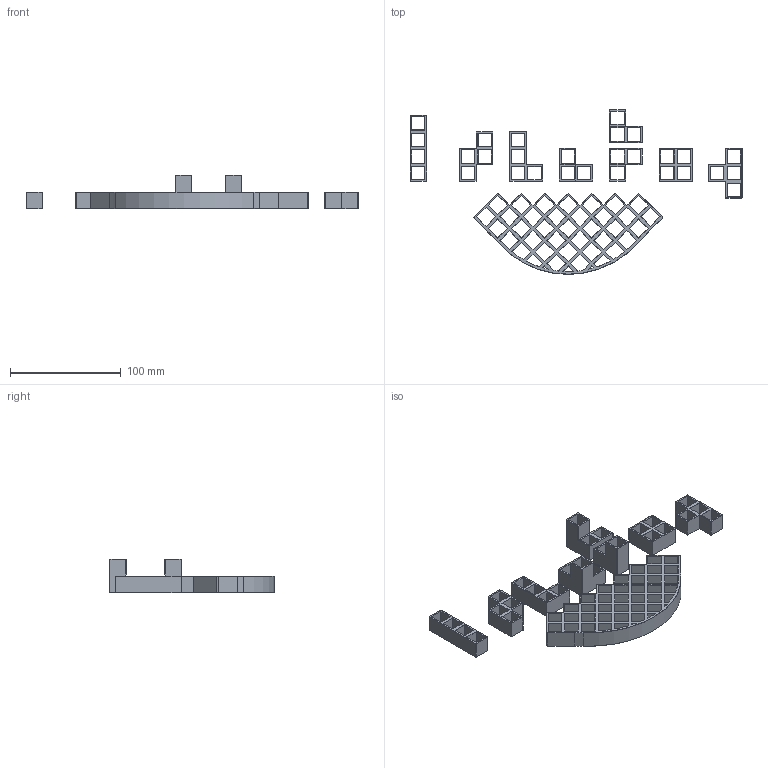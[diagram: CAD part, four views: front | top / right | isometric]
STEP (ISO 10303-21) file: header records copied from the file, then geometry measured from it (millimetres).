
FILE_DESCRIPTION(/* description */ ('STEP AP242','CAx-IF Rec.Pracs.---Representation and Presentation of Product Manufacturing Information (PMI)---4.0---2014-10-13','CAx-IF Rec.Pracs.---3D Tessellated Geometry---0.4---2014-09-14','2;1'),/* implementation_level */ '2;1');
FILE_NAME(/* name */ '659a62908c26f72423a1da19',/* time_stamp */ '2024-01-07T08:36:34Z',/* author */ (''),/* organization */ (''),/* preprocessor_version */ 'ST-DEVELOPER v19.4',/* originating_system */ ' ',/* authorisation */ ' ');
FILE_SCHEMA (('AP242_MANAGED_MODEL_BASED_3D_ENGINEERING_MIM_LF { 1 0 10303 442 1 1 4 }'));
Length unit declared in the file: metre
Products named in the file (9): Base; 2.Stage L; Line; Square; T; Z; L; 2.Stage M; 2.Stage R
Bounding box: 299.96 x 148.94 x 30 mm (x, y, z)
Volume: 87863.5 mm3; surface area: 86069.7 mm2
Topology: 9 solids, 9 shells, 1219 faces, 2808 edges, 1608 vertices
Faces by surface type: plane 1024, cone 127, cylinder 68
Full cylindrical faces by diameter (mm): 1 x1
Entity records: 33469 total; most frequent: CARTESIAN_POINT 5751, ORIENTED_EDGE 5614, DIRECTION 5494, EDGE_CURVE 2807, LINE 2504, VECTOR 2504, VERTEX_POINT 1608, AXIS2_PLACEMENT_3D 1495
